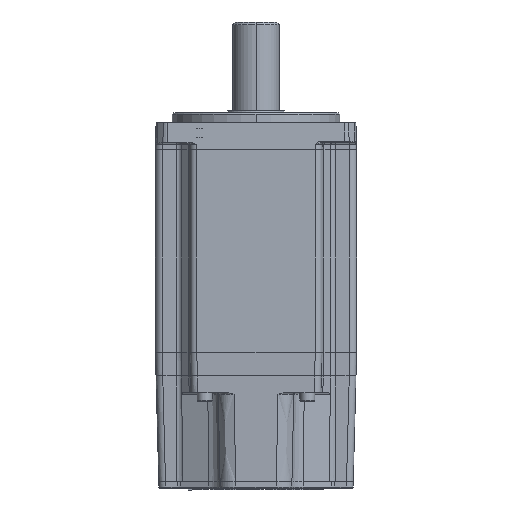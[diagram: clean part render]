
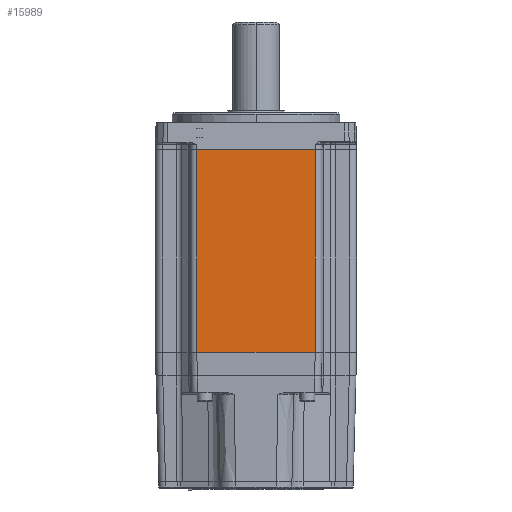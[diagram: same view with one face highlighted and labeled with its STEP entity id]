
A CAD part, front view. The second image highlights one B-rep face of the part: STEP entity #15989.
In plain terms, the highlighted planar face has unit normal (0, -1, 0).
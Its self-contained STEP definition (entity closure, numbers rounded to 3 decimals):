
#1962 = CARTESIAN_POINT ( 'NONE',  ( 17.65, -30., 34.347 ) ) ;
#3275 = DIRECTION ( 'NONE',  ( 1., 0., 0. ) ) ;
#3348 = VECTOR ( 'NONE', #36768, 1000. ) ;
#4622 = VERTEX_POINT ( 'NONE', #9330 ) ;
#4820 = CARTESIAN_POINT ( 'NONE',  ( 0., -30., 34.347 ) ) ;
#6298 = CARTESIAN_POINT ( 'NONE',  ( 0., -30., 34.347 ) ) ;
#7573 = VERTEX_POINT ( 'NONE', #1962 ) ;
#9330 = CARTESIAN_POINT ( 'NONE',  ( 17.65, -30., -26.153 ) ) ;
#9783 = LINE ( 'NONE', #10407, #56072 ) ;
#10407 = CARTESIAN_POINT ( 'NONE',  ( -17.65, -30., 34.347 ) ) ;
#11716 = ORIENTED_EDGE ( 'NONE', *, *, #49367, .T. ) ;
#14264 = ORIENTED_EDGE ( 'NONE', *, *, #50020, .T. ) ;
#14348 = ORIENTED_EDGE ( 'NONE', *, *, #16495, .F. ) ;
#15989 = ADVANCED_FACE ( 'NONE', ( #25874 ), #26902, .F. ) ;
#16495 = EDGE_CURVE ( 'NONE', #20240, #7573, #41543, .T. ) ;
#18715 = CARTESIAN_POINT ( 'NONE',  ( -17.65, -30., 34.347 ) ) ;
#19709 = EDGE_CURVE ( 'NONE', #20240, #34773, #9783, .T. ) ;
#20240 = VERTEX_POINT ( 'NONE', #18715 ) ;
#21425 = VECTOR ( 'NONE', #3275, 1000. ) ;
#23864 = DIRECTION ( 'NONE',  ( 0., 0., -1. ) ) ;
#24947 = CARTESIAN_POINT ( 'NONE',  ( 0., -30., -26.153 ) ) ;
#25874 = FACE_OUTER_BOUND ( 'NONE', #40895, .T. ) ;
#26345 = DIRECTION ( 'NONE',  ( 0., 0., 1. ) ) ;
#26874 = LINE ( 'NONE', #24947, #21425 ) ;
#26902 = PLANE ( 'NONE',  #33211 ) ;
#30381 = CARTESIAN_POINT ( 'NONE',  ( -17.65, -30., -26.153 ) ) ;
#32402 = VECTOR ( 'NONE', #34846, 1000. ) ;
#33211 = AXIS2_PLACEMENT_3D ( 'NONE', #4820, #35311, #26345 ) ;
#34773 = VERTEX_POINT ( 'NONE', #30381 ) ;
#34846 = DIRECTION ( 'NONE',  ( 0., 0., 1. ) ) ;
#35311 = DIRECTION ( 'NONE',  ( 0., 1., 0. ) ) ;
#36768 = DIRECTION ( 'NONE',  ( 1., 0., 0. ) ) ;
#38665 = CARTESIAN_POINT ( 'NONE',  ( 17.65, -30., 34.347 ) ) ;
#40895 = EDGE_LOOP ( 'NONE', ( #14264, #11716, #14348, #47084 ) ) ;
#41543 = LINE ( 'NONE', #6298, #3348 ) ;
#43982 = LINE ( 'NONE', #38665, #32402 ) ;
#47084 = ORIENTED_EDGE ( 'NONE', *, *, #19709, .T. ) ;
#49367 = EDGE_CURVE ( 'NONE', #4622, #7573, #43982, .T. ) ;
#50020 = EDGE_CURVE ( 'NONE', #34773, #4622, #26874, .T. ) ;
#56072 = VECTOR ( 'NONE', #23864, 1000. ) ;
